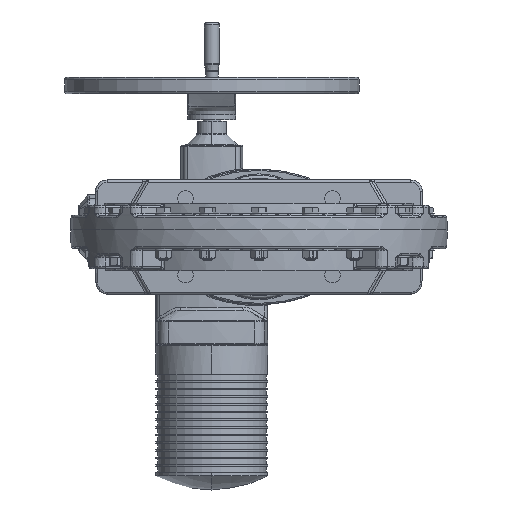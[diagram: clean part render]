
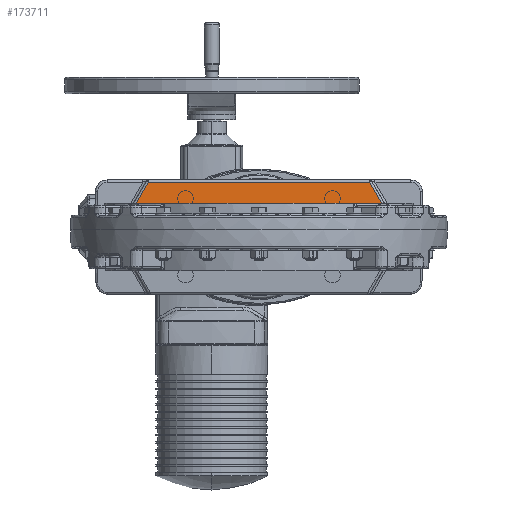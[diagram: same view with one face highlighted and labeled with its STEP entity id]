
A CAD part, front view. The second image highlights one B-rep face of the part: STEP entity #173711.
In plain terms, the highlighted planar face has unit normal (0, -0.999, 0.035).
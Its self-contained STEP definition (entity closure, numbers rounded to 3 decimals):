
#831 = CARTESIAN_POINT ( 'NONE',  ( -221.536, 358., 31. ) ) ;
#3449 = EDGE_CURVE ( 'NONE', #182479, #168730, #53592, .T. ) ;
#4924 = EDGE_CURVE ( 'NONE', #200788, #191475, #122616, .T. ) ;
#16021 = PLANE ( 'NONE',  #190242 ) ;
#16711 = DIRECTION ( 'NONE',  ( 0., 0.035, 0.999 ) ) ;
#17923 = CARTESIAN_POINT ( 'NONE',  ( 186.954, 359.817, 83.037 ) ) ;
#27493 = CARTESIAN_POINT ( 'NONE',  ( -188.05, 359.751, 81.14 ) ) ;
#37579 = VECTOR ( 'NONE', #127901, 1000. ) ;
#53592 = LINE ( 'NONE', #67266, #68421 ) ;
#54787 = EDGE_LOOP ( 'NONE', ( #58699, #72704, #182465, #188212 ) ) ;
#58699 = ORIENTED_EDGE ( 'NONE', *, *, #64505, .T. ) ;
#64505 = EDGE_CURVE ( 'NONE', #168730, #200788, #121219, .T. ) ;
#65769 = FACE_OUTER_BOUND ( 'NONE', #54787, .T. ) ;
#67266 = CARTESIAN_POINT ( 'NONE',  ( -221.536, 358.135, 34.86 ) ) ;
#68421 = VECTOR ( 'NONE', #83152, 1000. ) ;
#72704 = ORIENTED_EDGE ( 'NONE', *, *, #4924, .T. ) ;
#72731 = CARTESIAN_POINT ( 'NONE',  ( 214.769, 358.135, 34.86 ) ) ;
#80872 = VECTOR ( 'NONE', #128732, 1000. ) ;
#82301 = VECTOR ( 'NONE', #152283, 1000. ) ;
#83152 = DIRECTION ( 'NONE',  ( 1., 0., 0. ) ) ;
#110953 = DIRECTION ( 'NONE',  ( 0., -0.999, 0.035 ) ) ;
#113010 = CARTESIAN_POINT ( 'NONE',  ( -185.821, 359.751, 81.14 ) ) ;
#121219 = LINE ( 'NONE', #17923, #37579 ) ;
#122616 = LINE ( 'NONE', #113010, #80872 ) ;
#124035 = LINE ( 'NONE', #198993, #82301 ) ;
#127901 = DIRECTION ( 'NONE',  ( -0.5, 0.03, 0.866 ) ) ;
#128732 = DIRECTION ( 'NONE',  ( -1., 0., 0. ) ) ;
#149167 = CARTESIAN_POINT ( 'NONE',  ( -214.769, 358.135, 34.86 ) ) ;
#152283 = DIRECTION ( 'NONE',  ( -0.5, -0.03, -0.866 ) ) ;
#154082 = CARTESIAN_POINT ( 'NONE',  ( 188.05, 359.751, 81.14 ) ) ;
#167817 = EDGE_CURVE ( 'NONE', #191475, #182479, #124035, .T. ) ;
#168730 = VERTEX_POINT ( 'NONE', #72731 ) ;
#173711 = ADVANCED_FACE ( 'NONE', ( #65769 ), #16021, .T. ) ;
#182465 = ORIENTED_EDGE ( 'NONE', *, *, #167817, .T. ) ;
#182479 = VERTEX_POINT ( 'NONE', #149167 ) ;
#188212 = ORIENTED_EDGE ( 'NONE', *, *, #3449, .T. ) ;
#190242 = AXIS2_PLACEMENT_3D ( 'NONE', #831, #110953, #16711 ) ;
#191475 = VERTEX_POINT ( 'NONE', #27493 ) ;
#198993 = CARTESIAN_POINT ( 'NONE',  ( -218.131, 357.931, 29.037 ) ) ;
#200788 = VERTEX_POINT ( 'NONE', #154082 ) ;
